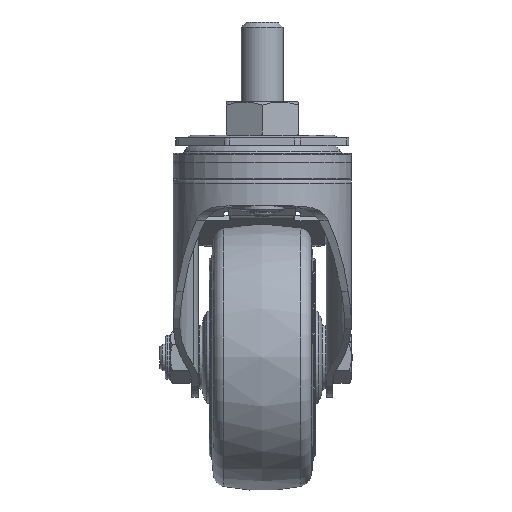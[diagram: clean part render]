
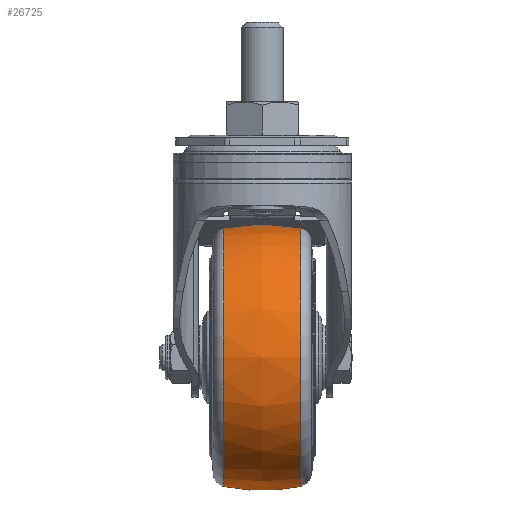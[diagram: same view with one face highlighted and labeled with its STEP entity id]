
A CAD part, left-side view. The second image highlights one B-rep face of the part: STEP entity #26725.
In plain terms, the highlighted free-form (B-spline) face has degree [2, 2] with [3, 9] control points.
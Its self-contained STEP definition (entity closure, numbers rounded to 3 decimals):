
#64=(
BOUNDED_SURFACE()
B_SPLINE_SURFACE(2,2,((#42378,#42379,#42380,#42381,#42382,#42383,#42384,
#42385,#42386),(#42387,#42388,#42389,#42390,#42391,#42392,#42393,#42394,
#42395),(#42396,#42397,#42398,#42399,#42400,#42401,#42402,#42403,#42404)),
 .UNSPECIFIED.,.F.,.T.,.F.)
B_SPLINE_SURFACE_WITH_KNOTS((3,3),(3,2,2,2,3),(-0.208,0.208),
(-3.142,-1.571,0.,1.571,3.142),
 .UNSPECIFIED.)
GEOMETRIC_REPRESENTATION_ITEM()
RATIONAL_B_SPLINE_SURFACE(((1.,0.707,1.,0.707,1.,
0.707,1.,0.707,1.),(0.978,0.692,
0.978,0.692,0.978,0.692,
0.978,0.692,0.978),(1.,0.707,
1.,0.707,1.,0.707,1.,0.707,1.)))
REPRESENTATION_ITEM('')
SURFACE()
);
#3632=FACE_OUTER_BOUND('',#5239,.T.);
#5239=EDGE_LOOP('',(#20204,#20205,#20206,#20207));
#10505=CIRCLE('',#28144,48.492);
#10524=CIRCLE('',#28172,48.492);
#10526=CIRCLE('',#28174,70.);
#11788=VERTEX_POINT('',#42328);
#11803=VERTEX_POINT('',#42375);
#14876=EDGE_CURVE('',#11788,#11788,#10505,.T.);
#14898=EDGE_CURVE('',#11803,#11803,#10524,.T.);
#14900=EDGE_CURVE('',#11788,#11803,#10526,.T.);
#20204=ORIENTED_EDGE('',*,*,#14876,.F.);
#20205=ORIENTED_EDGE('',*,*,#14900,.T.);
#20206=ORIENTED_EDGE('',*,*,#14898,.T.);
#20207=ORIENTED_EDGE('',*,*,#14900,.F.);
#26725=ADVANCED_FACE('',(#3632),#64,.F.);
#28144=AXIS2_PLACEMENT_3D('',#42330,#30433,#30434);
#28172=AXIS2_PLACEMENT_3D('',#42376,#30492,#30493);
#28174=AXIS2_PLACEMENT_3D('',#42405,#30496,#30497);
#30433=DIRECTION('center_axis',(0.,-1.,0.));
#30434=DIRECTION('ref_axis',(0.,0.,
1.));
#30492=DIRECTION('center_axis',(0.,-1.,0.));
#30493=DIRECTION('ref_axis',(0.,0.,
1.));
#30496=DIRECTION('center_axis',(1.,0.,0.));
#30497=DIRECTION('ref_axis',(0.,0.,
-1.));
#42328=CARTESIAN_POINT('',(36.,-14.451,-132.292));
#42330=CARTESIAN_POINT('Origin',(36.,-14.451,-83.8));
#42375=CARTESIAN_POINT('',(36.,14.451,-132.292));
#42376=CARTESIAN_POINT('Origin',(36.,14.451,-83.8));
#42378=CARTESIAN_POINT('Ctrl Pts',(36.,14.451,-132.292));
#42379=CARTESIAN_POINT('Ctrl Pts',(84.492,14.451,-132.292));
#42380=CARTESIAN_POINT('Ctrl Pts',(84.492,14.451,-83.8));
#42381=CARTESIAN_POINT('Ctrl Pts',(84.492,14.451,-35.308));
#42382=CARTESIAN_POINT('Ctrl Pts',(36.,14.451,-35.308));
#42383=CARTESIAN_POINT('Ctrl Pts',(-12.492,14.451,-35.308));
#42384=CARTESIAN_POINT('Ctrl Pts',(-12.492,14.451,-83.8));
#42385=CARTESIAN_POINT('Ctrl Pts',(-12.492,14.451,-132.292));
#42386=CARTESIAN_POINT('Ctrl Pts',(36.,14.451,-132.292));
#42387=CARTESIAN_POINT('Ctrl Pts',(36.,0.,
-135.341));
#42388=CARTESIAN_POINT('Ctrl Pts',(87.541,0.,
-135.341));
#42389=CARTESIAN_POINT('Ctrl Pts',(87.541,0.,
-83.8));
#42390=CARTESIAN_POINT('Ctrl Pts',(87.541,0.,
-32.259));
#42391=CARTESIAN_POINT('Ctrl Pts',(36.,0.,
-32.259));
#42392=CARTESIAN_POINT('Ctrl Pts',(-15.541,0.,
-32.259));
#42393=CARTESIAN_POINT('Ctrl Pts',(-15.541,0.,
-83.8));
#42394=CARTESIAN_POINT('Ctrl Pts',(-15.541,0.,
-135.341));
#42395=CARTESIAN_POINT('Ctrl Pts',(36.,0.,
-135.341));
#42396=CARTESIAN_POINT('Ctrl Pts',(36.,-14.451,-132.292));
#42397=CARTESIAN_POINT('Ctrl Pts',(84.492,-14.451,-132.292));
#42398=CARTESIAN_POINT('Ctrl Pts',(84.492,-14.451,-83.8));
#42399=CARTESIAN_POINT('Ctrl Pts',(84.492,-14.451,-35.308));
#42400=CARTESIAN_POINT('Ctrl Pts',(36.,-14.451,-35.308));
#42401=CARTESIAN_POINT('Ctrl Pts',(-12.492,-14.451,
-35.308));
#42402=CARTESIAN_POINT('Ctrl Pts',(-12.492,-14.451,
-83.8));
#42403=CARTESIAN_POINT('Ctrl Pts',(-12.492,-14.451,
-132.292));
#42404=CARTESIAN_POINT('Ctrl Pts',(36.,-14.451,-132.292));
#42405=CARTESIAN_POINT('Origin',(36.,0.,
-63.8));
